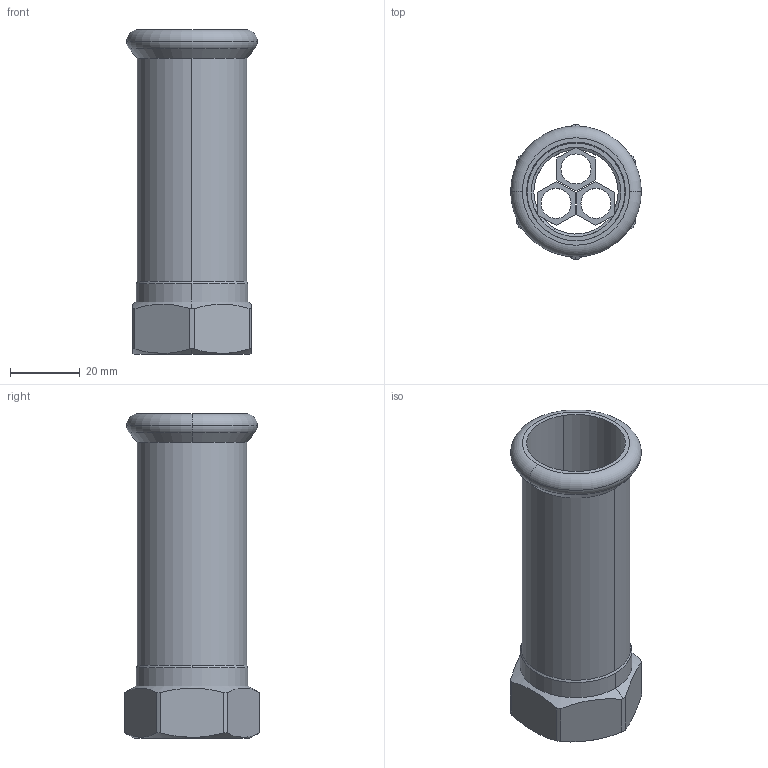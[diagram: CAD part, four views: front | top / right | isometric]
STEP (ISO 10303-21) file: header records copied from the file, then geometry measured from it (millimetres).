
FILE_DESCRIPTION(('OneSpaceDesigner STEP Export'),'2;1');
FILE_NAME('R2741 28xRp3-4.stp','2010-06-10T14:49:34',(''),(''),'OneSpace Designer STEP processor for AP214 (Solid Model)','OneSpace Modeling 15.00A 14-Mar-2007 (C) CoCreate Software GmbH','');
FILE_SCHEMA(('AUTOMOTIVE_DESIGN { 1 0 10303 214 1 1 1 1 }'));
Length unit declared in the file: millimetre
Products named in the file (2): R2741_28xRp3-4
Assembly tree (1 placements, depth 2):
  R2741_28xRp3-4
    R2741_28xRp3-4
Bounding box: 37.45 x 38.5 x 93 mm (x, y, z)
Volume: 21086.7 mm3; surface area: 19397.6 mm2
Topology: 1 solids, 1 shells, 84 faces, 235 edges, 154 vertices
Faces by surface type: plane 36, cylinder 27, cone 17, torus 4
Entity records: 3415 total; most frequent: CARTESIAN_POINT 1382, ORIENTED_EDGE 470, DIRECTION 345, EDGE_CURVE 235, VERTEX_POINT 154, VECTOR 119, LINE 119, AXIS2_PLACEMENT_3D 113
